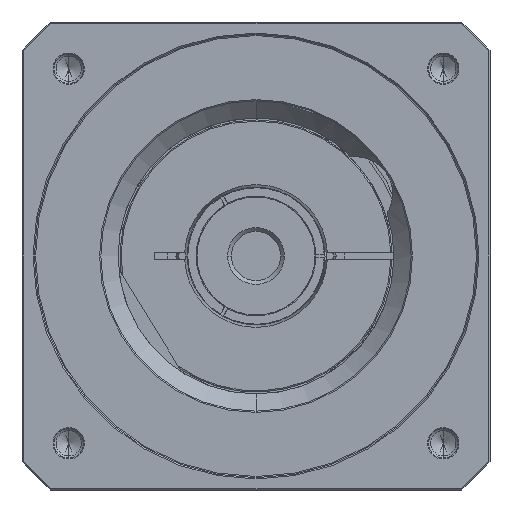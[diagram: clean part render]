
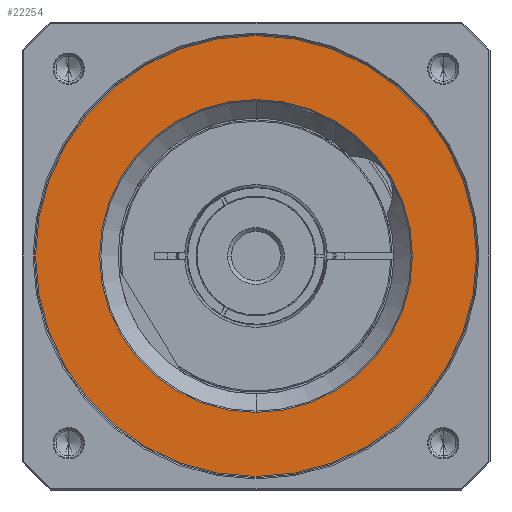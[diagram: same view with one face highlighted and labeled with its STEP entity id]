
A CAD part, left-side view. The second image highlights one B-rep face of the part: STEP entity #22254.
In plain terms, the highlighted planar face has unit normal (-1, 0, 0) as drawn and (0, 0, 1) by its records, which use the part's own axes.
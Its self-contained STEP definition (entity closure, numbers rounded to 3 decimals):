
#21108=CARTESIAN_POINT('',(0.,0.,46.));
#21109=DIRECTION('',(0.,0.,-1.));
#21110=DIRECTION('',(0.,-1.,0.));
#21111=AXIS2_PLACEMENT_3D('',#21108,#21109,#21110);
#21113=CARTESIAN_POINT('',(0.,0.,46.));
#21114=DIRECTION('',(0.,0.,-1.));
#21115=DIRECTION('',(0.,1.,0.));
#21116=AXIS2_PLACEMENT_3D('',#21113,#21114,#21115);
#21118=CARTESIAN_POINT('',(0.,0.,
46.));
#21119=DIRECTION('',(0.,0.,-1.));
#21120=DIRECTION('',(1.,0.,0.));
#21121=AXIS2_PLACEMENT_3D('',#21118,#21119,#21120);
#21123=CARTESIAN_POINT('',(0.,0.,
46.));
#21124=DIRECTION('',(0.,0.,-1.));
#21125=DIRECTION('',(-1.,0.,0.));
#21126=AXIS2_PLACEMENT_3D('',#21123,#21124,#21125);
#21990=CARTESIAN_POINT('',(0.,-89.5,46.));
#21991=CARTESIAN_POINT('',(0.,89.5,46.));
#21992=VERTEX_POINT('',#21990);
#21993=VERTEX_POINT('',#21991);
#22026=CARTESIAN_POINT('',(63.5,0.,46.));
#22027=CARTESIAN_POINT('',(-63.5,0.,
46.));
#22028=VERTEX_POINT('',#22026);
#22029=VERTEX_POINT('',#22027);
#22238=CARTESIAN_POINT('',(0.,0.,46.));
#22239=DIRECTION('',(0.,0.,-1.));
#22240=DIRECTION('',(0.,-1.,0.));
#22241=AXIS2_PLACEMENT_3D('',#22238,#22239,#22240);
#22242=PLANE('',#22241);
#22244=ORIENTED_EDGE('',*,*,#22243,.T.);
#22246=ORIENTED_EDGE('',*,*,#22245,.T.);
#22247=EDGE_LOOP('',(#22244,#22246));
#22248=FACE_OUTER_BOUND('',#22247,.F.);
#22249=ORIENTED_EDGE('',*,*,#22228,.F.);
#22251=ORIENTED_EDGE('',*,*,#22250,.F.);
#22252=EDGE_LOOP('',(#22249,#22251));
#22253=FACE_BOUND('',#22252,.F.);
#22254=ADVANCED_FACE('',(#22248,#22253),#22242,.F.);
#21112=CIRCLE('',#21111,89.5);
#21117=CIRCLE('',#21116,89.5);
#21122=CIRCLE('',#21121,63.5);
#21127=CIRCLE('',#21126,63.5);
#22228=EDGE_CURVE('',#22028,#22029,#21122,.T.);
#22243=EDGE_CURVE('',#21992,#21993,#21112,.T.);
#22245=EDGE_CURVE('',#21993,#21992,#21117,.T.);
#22250=EDGE_CURVE('',#22029,#22028,#21127,.T.);
